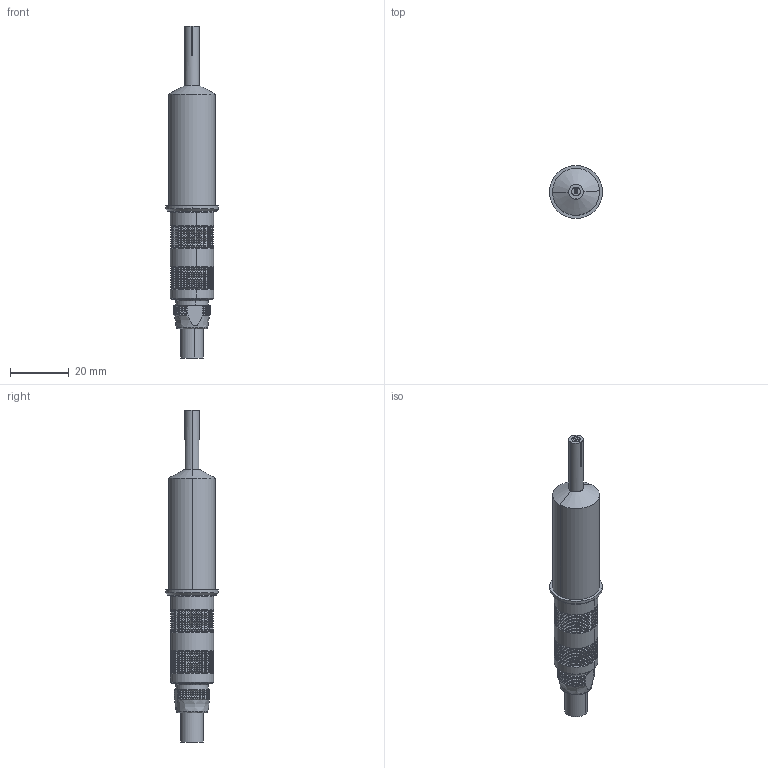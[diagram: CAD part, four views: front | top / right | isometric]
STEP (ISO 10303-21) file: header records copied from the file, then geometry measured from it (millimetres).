
FILE_DESCRIPTION (( 'STEP AP214' ), '1' );
FILE_NAME ('RISO5_kurz_Stecker_gerade.STEP', '2011-02-21T00:57:24', ( '' ), ( '' ), 'SwSTEP 2.0', 'SolidWorks 2010', '' );
FILE_SCHEMA (( 'AUTOMOTIVE_DESIGN' ));
Length unit declared in the file: millimetre
Products named in the file (1): RISO5_kurz_Stecker_gerade
Bounding box: 18 x 18 x 113 mm (x, y, z)
Surface area: 5274.1 mm2 (no closed solid volume)
Topology: 0 solids, 7 shells, 7064 faces, 14880 edges, 7814 vertices
Faces by surface type: plane 4377, bspline 2661, cylinder 18, cone 8
Entity records: 278272 total; most frequent: CARTESIAN_POINT 87238, ORIENTED_EDGE 29696, DIRECTION 18680, EDGE_CURVE 14878, AXIS2_PLACEMENT_3D 8170, VERTEX_POINT 7814, EDGE_LOOP 7071, UNCERTAINTY_MEASURE_WITH_UNIT 7066
